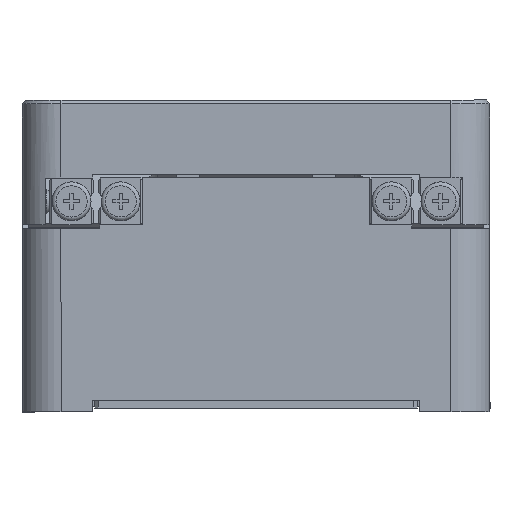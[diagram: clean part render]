
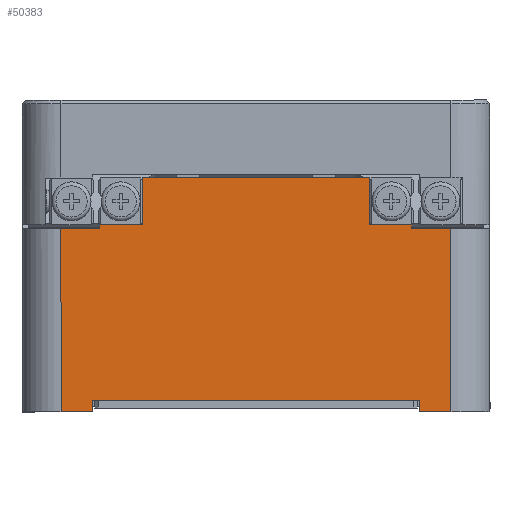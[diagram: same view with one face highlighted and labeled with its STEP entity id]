
A CAD part, left-side view. The second image highlights one B-rep face of the part: STEP entity #50383.
In plain terms, the highlighted planar face has unit normal (-1, 0, 0).
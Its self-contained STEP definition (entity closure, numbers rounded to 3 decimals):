
#1825=PLANE('',#54163);
#4198=FACE_OUTER_BOUND('',#7170,.T.);
#7170=EDGE_LOOP('',(#38150,#38151,#38152,#38153,#38154,#38155,#38156,#38157,
#38158,#38159,#38160,#38161,#38162,#38163,#38164,#38165,#38166,#38167));
#9241=LINE('',#71403,#14180);
#9250=LINE('',#71421,#14189);
#9251=LINE('',#71424,#14190);
#10970=LINE('',#78249,#15909);
#10972=LINE('',#78253,#15911);
#11036=LINE('',#78444,#15975);
#11039=LINE('',#78449,#15978);
#11045=LINE('',#78461,#15984);
#11051=LINE('',#78473,#15990);
#11053=LINE('',#78489,#15992);
#11059=LINE('',#78501,#15998);
#11065=LINE('',#78513,#16004);
#11130=LINE('',#78689,#16069);
#11131=LINE('',#78690,#16070);
#11132=LINE('',#78692,#16071);
#11133=LINE('',#78694,#16072);
#11134=LINE('',#78695,#16073);
#11135=LINE('',#78696,#16074);
#14180=VECTOR('',#57374,10.);
#14189=VECTOR('',#57391,10.);
#14190=VECTOR('',#57394,10.);
#15909=VECTOR('',#62665,10.);
#15911=VECTOR('',#62669,10.);
#15975=VECTOR('',#62841,10.);
#15978=VECTOR('',#62846,10.);
#15984=VECTOR('',#62854,10.);
#15990=VECTOR('',#62862,10.);
#15992=VECTOR('',#62882,10.);
#15998=VECTOR('',#62890,10.);
#16004=VECTOR('',#62898,10.);
#16069=VECTOR('',#63081,10.);
#16070=VECTOR('',#63082,10.);
#16071=VECTOR('',#63083,10.);
#16072=VECTOR('',#63084,10.);
#16073=VECTOR('',#63085,10.);
#16074=VECTOR('',#63086,10.);
#20748=VERTEX_POINT('',#71354);
#20755=VERTEX_POINT('',#71374);
#20768=VERTEX_POINT('',#71419);
#20769=VERTEX_POINT('',#71423);
#22467=VERTEX_POINT('',#78248);
#22468=VERTEX_POINT('',#78252);
#22540=VERTEX_POINT('',#78442);
#22541=VERTEX_POINT('',#78443);
#22542=VERTEX_POINT('',#78448);
#22547=VERTEX_POINT('',#78460);
#22552=VERTEX_POINT('',#78472);
#22557=VERTEX_POINT('',#78488);
#22562=VERTEX_POINT('',#78500);
#22567=VERTEX_POINT('',#78512);
#22618=VERTEX_POINT('',#78687);
#22619=VERTEX_POINT('',#78688);
#22620=VERTEX_POINT('',#78691);
#22621=VERTEX_POINT('',#78693);
#25406=EDGE_CURVE('',#20755,#20748,#9241,.T.);
#25415=EDGE_CURVE('',#20768,#20755,#9250,.T.);
#25416=EDGE_CURVE('',#20748,#20769,#9251,.T.);
#27999=EDGE_CURVE('',#22467,#20768,#10970,.T.);
#28001=EDGE_CURVE('',#20769,#22468,#10972,.T.);
#28092=EDGE_CURVE('',#22540,#22541,#11036,.T.);
#28095=EDGE_CURVE('',#22542,#22540,#11039,.T.);
#28101=EDGE_CURVE('',#22547,#22542,#11045,.T.);
#28107=EDGE_CURVE('',#22552,#22547,#11051,.T.);
#28117=EDGE_CURVE('',#22557,#22552,#11053,.T.);
#28123=EDGE_CURVE('',#22562,#22557,#11059,.T.);
#28129=EDGE_CURVE('',#22567,#22562,#11065,.T.);
#28210=EDGE_CURVE('',#22618,#22619,#11130,.T.);
#28211=EDGE_CURVE('',#22468,#22618,#11131,.T.);
#28212=EDGE_CURVE('',#22620,#22467,#11132,.T.);
#28213=EDGE_CURVE('',#22621,#22620,#11133,.T.);
#28214=EDGE_CURVE('',#22541,#22621,#11134,.T.);
#28215=EDGE_CURVE('',#22619,#22567,#11135,.T.);
#38150=ORIENTED_EDGE('',*,*,#28210,.F.);
#38151=ORIENTED_EDGE('',*,*,#28211,.F.);
#38152=ORIENTED_EDGE('',*,*,#28001,.F.);
#38153=ORIENTED_EDGE('',*,*,#25416,.F.);
#38154=ORIENTED_EDGE('',*,*,#25406,.F.);
#38155=ORIENTED_EDGE('',*,*,#25415,.F.);
#38156=ORIENTED_EDGE('',*,*,#27999,.F.);
#38157=ORIENTED_EDGE('',*,*,#28212,.F.);
#38158=ORIENTED_EDGE('',*,*,#28213,.F.);
#38159=ORIENTED_EDGE('',*,*,#28214,.F.);
#38160=ORIENTED_EDGE('',*,*,#28092,.F.);
#38161=ORIENTED_EDGE('',*,*,#28095,.F.);
#38162=ORIENTED_EDGE('',*,*,#28101,.F.);
#38163=ORIENTED_EDGE('',*,*,#28107,.F.);
#38164=ORIENTED_EDGE('',*,*,#28117,.F.);
#38165=ORIENTED_EDGE('',*,*,#28123,.F.);
#38166=ORIENTED_EDGE('',*,*,#28129,.F.);
#38167=ORIENTED_EDGE('',*,*,#28215,.F.);
#50383=ADVANCED_FACE('',(#4198),#1825,.F.);
#54163=AXIS2_PLACEMENT_3D('',#78686,#63079,#63080);
#57374=DIRECTION('',(0.,1.,0.));
#57391=DIRECTION('',(0.,1.,0.));
#57394=DIRECTION('',(0.,1.,0.));
#62665=DIRECTION('',(0.,0.,1.));
#62669=DIRECTION('',(0.,0.,-1.));
#62841=DIRECTION('',(0.,0.,-1.));
#62846=DIRECTION('',(0.,-1.,0.));
#62854=DIRECTION('',(0.,0.,-1.));
#62862=DIRECTION('',(0.,-1.,0.));
#62882=DIRECTION('',(0.,0.,1.));
#62890=DIRECTION('',(0.,-1.,0.));
#62898=DIRECTION('',(0.,0.,1.));
#63079=DIRECTION('center_axis',(1.,0.,0.));
#63080=DIRECTION('ref_axis',(0.,0.,
-1.));
#63081=DIRECTION('',(0.,0.,1.));
#63082=DIRECTION('',(0.,1.,0.));
#63083=DIRECTION('',(0.,1.,0.));
#63084=DIRECTION('',(0.,0.,-1.));
#63085=DIRECTION('',(0.,-1.,0.));
#63086=DIRECTION('',(0.,-1.,0.));
#71354=CARTESIAN_POINT('',(-131.798,40.064,-10.323));
#71374=CARTESIAN_POINT('',(-131.798,-0.336,-10.323));
#71403=CARTESIAN_POINT('',(-131.798,30.045,-10.323));
#71419=CARTESIAN_POINT('',(-131.798,-1.136,-10.323));
#71421=CARTESIAN_POINT('',(-131.798,30.045,-10.323));
#71423=CARTESIAN_POINT('',(-131.798,40.864,-10.323));
#71424=CARTESIAN_POINT('',(-131.798,30.045,-10.323));
#78248=CARTESIAN_POINT('',(-131.798,-1.136,-11.823));
#78249=CARTESIAN_POINT('',(-131.798,-1.136,-4.461));
#78252=CARTESIAN_POINT('',(-131.798,40.864,-11.823));
#78253=CARTESIAN_POINT('',(-131.798,40.864,-5.211));
#78442=CARTESIAN_POINT('',(-131.798,-0.136,12.177));
#78443=CARTESIAN_POINT('',(-131.798,-0.136,11.677));
#78444=CARTESIAN_POINT('',(-131.798,-0.136,6.539));
#78448=CARTESIAN_POINT('',(-131.798,5.364,12.177));
#78449=CARTESIAN_POINT('',(-131.798,9.545,12.177));
#78460=CARTESIAN_POINT('',(-131.798,5.364,18.177));
#78461=CARTESIAN_POINT('',(-131.798,5.364,6.789));
#78472=CARTESIAN_POINT('',(-131.798,34.364,18.177));
#78473=CARTESIAN_POINT('',(-131.798,19.545,18.177));
#78488=CARTESIAN_POINT('',(-131.798,34.364,12.177));
#78489=CARTESIAN_POINT('',(-131.798,34.364,9.789));
#78500=CARTESIAN_POINT('',(-131.798,39.864,12.177));
#78501=CARTESIAN_POINT('',(-131.798,26.795,12.177));
#78512=CARTESIAN_POINT('',(-131.798,39.864,11.677));
#78513=CARTESIAN_POINT('',(-131.798,39.864,6.789));
#78686=CARTESIAN_POINT('Origin',(-131.798,19.227,1.4));
#78687=CARTESIAN_POINT('',(-131.798,44.864,-11.823));
#78688=CARTESIAN_POINT('',(-131.798,44.864,11.677));
#78689=CARTESIAN_POINT('',(-131.798,44.864,-5.211));
#78690=CARTESIAN_POINT('',(-131.798,19.545,-11.823));
#78691=CARTESIAN_POINT('',(-131.798,-5.136,-11.823));
#78692=CARTESIAN_POINT('',(-131.798,19.545,-11.823));
#78693=CARTESIAN_POINT('',(-131.798,-5.136,11.677));
#78694=CARTESIAN_POINT('',(-131.798,-5.136,-5.211));
#78695=CARTESIAN_POINT('',(-131.798,4.545,11.677));
#78696=CARTESIAN_POINT('',(-131.798,29.545,11.677));
